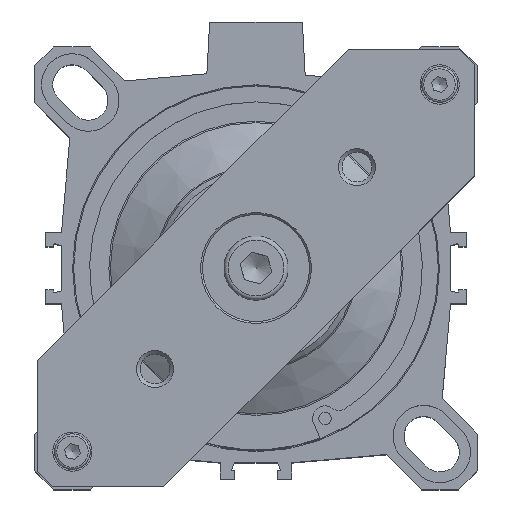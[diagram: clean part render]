
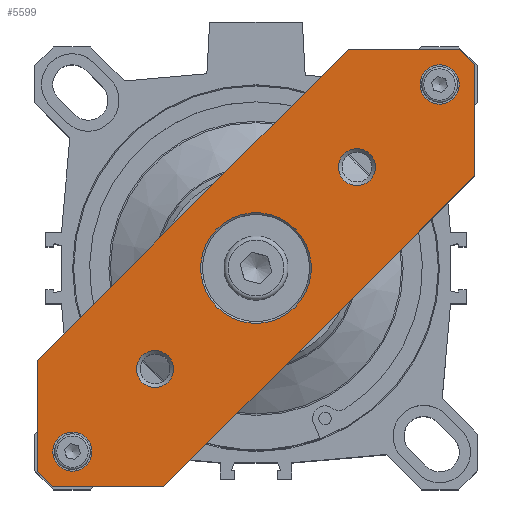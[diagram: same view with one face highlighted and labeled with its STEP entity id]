
A CAD part, top view. The second image highlights one B-rep face of the part: STEP entity #5599.
In plain terms, the highlighted planar face has unit normal (0, 0, 1).
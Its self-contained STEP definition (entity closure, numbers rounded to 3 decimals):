
#221=PLANE('',#8483);
#629=LINE('',#11787,#1035);
#633=LINE('',#11796,#1039);
#636=LINE('',#11802,#1042);
#639=LINE('',#11808,#1045);
#642=LINE('',#11814,#1048);
#645=LINE('',#11820,#1051);
#648=LINE('',#11826,#1054);
#651=LINE('',#11832,#1057);
#1035=VECTOR('',#10000,1000.);
#1039=VECTOR('',#10006,1000.);
#1042=VECTOR('',#10011,1000.);
#1045=VECTOR('',#10016,1000.);
#1048=VECTOR('',#10021,1000.);
#1051=VECTOR('',#10026,1000.);
#1054=VECTOR('',#10031,1000.);
#1057=VECTOR('',#10036,1000.);
#2456=ORIENTED_EDGE('',*,*,#3295,.F.);
#2457=ORIENTED_EDGE('',*,*,#3292,.F.);
#2458=ORIENTED_EDGE('',*,*,#3293,.F.);
#2459=ORIENTED_EDGE('',*,*,#3296,.T.);
#2460=ORIENTED_EDGE('',*,*,#3297,.T.);
#2461=ORIENTED_EDGE('',*,*,#3288,.F.);
#2462=ORIENTED_EDGE('',*,*,#3266,.F.);
#2463=ORIENTED_EDGE('',*,*,#3270,.F.);
#2464=ORIENTED_EDGE('',*,*,#3273,.F.);
#2465=ORIENTED_EDGE('',*,*,#3276,.F.);
#2466=ORIENTED_EDGE('',*,*,#3279,.F.);
#2467=ORIENTED_EDGE('',*,*,#3282,.F.);
#2468=ORIENTED_EDGE('',*,*,#3285,.F.);
#3266=EDGE_CURVE('',#4631,#4632,#629,.T.);
#3270=EDGE_CURVE('',#4635,#4631,#633,.T.);
#3273=EDGE_CURVE('',#4637,#4635,#636,.T.);
#3276=EDGE_CURVE('',#4639,#4637,#639,.T.);
#3279=EDGE_CURVE('',#4641,#4639,#642,.T.);
#3282=EDGE_CURVE('',#4643,#4641,#645,.T.);
#3285=EDGE_CURVE('',#4645,#4643,#648,.T.);
#3288=EDGE_CURVE('',#4632,#4645,#651,.T.);
#3292=EDGE_CURVE('',#4649,#4649,#3635,.T.);
#3293=EDGE_CURVE('',#4650,#4650,#3636,.T.);
#3295=EDGE_CURVE('',#4652,#4652,#3638,.T.);
#3296=EDGE_CURVE('',#4653,#4653,#3639,.T.);
#3297=EDGE_CURVE('',#4654,#4654,#3640,.T.);
#3635=CIRCLE('',#8479,15.5);
#3636=CIRCLE('',#8481,5.188);
#3638=CIRCLE('',#8484,5.188);
#3639=CIRCLE('',#8485,5.5);
#3640=CIRCLE('',#8486,5.5);
#4088=EDGE_LOOP('',(#2456));
#4089=EDGE_LOOP('',(#2457));
#4090=EDGE_LOOP('',(#2458));
#4091=EDGE_LOOP('',(#2459));
#4092=EDGE_LOOP('',(#2460));
#4093=EDGE_LOOP('',(#2461,#2462,#2463,#2464,#2465,#2466,#2467,#2468));
#4631=VERTEX_POINT('',#11788);
#4632=VERTEX_POINT('',#11789);
#4635=VERTEX_POINT('',#11797);
#4637=VERTEX_POINT('',#11803);
#4639=VERTEX_POINT('',#11809);
#4641=VERTEX_POINT('',#11815);
#4643=VERTEX_POINT('',#11821);
#4645=VERTEX_POINT('',#11827);
#4649=VERTEX_POINT('',#11841);
#4650=VERTEX_POINT('',#11844);
#4652=VERTEX_POINT('',#11849);
#4653=VERTEX_POINT('',#11851);
#4654=VERTEX_POINT('',#11853);
#5148=FACE_BOUND('',#4088,.T.);
#5149=FACE_BOUND('',#4089,.T.);
#5150=FACE_BOUND('',#4090,.T.);
#5151=FACE_BOUND('',#4091,.T.);
#5152=FACE_BOUND('',#4092,.T.);
#5153=FACE_BOUND('',#4093,.T.);
#5599=ADVANCED_FACE('',(#5148,#5149,#5150,#5151,#5152,#5153),#221,.T.);
#8479=AXIS2_PLACEMENT_3D('',#11840,#10046,#10047);
#8481=AXIS2_PLACEMENT_3D('',#11843,#10050,#10051);
#8483=AXIS2_PLACEMENT_3D('',#11847,#10054,#10055);
#8484=AXIS2_PLACEMENT_3D('',#11848,#10056,#10057);
#8485=AXIS2_PLACEMENT_3D('',#11850,#10058,#10059);
#8486=AXIS2_PLACEMENT_3D('',#11852,#10060,#10061);
#10000=DIRECTION('',(0.707,0.707,0.));
#10006=DIRECTION('',(0.,1.,0.));
#10011=DIRECTION('',(-0.707,0.707,0.));
#10016=DIRECTION('',(-1.,0.,0.));
#10021=DIRECTION('',(-0.707,-0.707,0.));
#10026=DIRECTION('',(0.,-1.,0.));
#10031=DIRECTION('',(0.707,-0.707,0.));
#10036=DIRECTION('',(1.,0.,0.));
#10046=DIRECTION('',(0.,0.,1.));
#10047=DIRECTION('',(-1.,0.,0.));
#10050=DIRECTION('',(0.,0.,1.));
#10051=DIRECTION('',(-1.,0.,0.));
#10054=DIRECTION('',(0.,0.,1.));
#10055=DIRECTION('',(1.,0.,0.));
#10056=DIRECTION('',(0.,0.,1.));
#10057=DIRECTION('',(-1.,0.,0.));
#10058=DIRECTION('',(0.,0.,-1.));
#10059=DIRECTION('',(1.,0.,0.));
#10060=DIRECTION('',(0.,0.,-1.));
#10061=DIRECTION('',(1.,0.,0.));
#11787=CARTESIAN_POINT('',(-83.5,3.,14.));
#11788=CARTESIAN_POINT('',(-83.5,3.,14.));
#11789=CARTESIAN_POINT('',(-61.5,25.,14.));
#11796=CARTESIAN_POINT('',(-83.5,-3.,14.));
#11797=CARTESIAN_POINT('',(-83.5,-3.,14.));
#11802=CARTESIAN_POINT('',(-61.5,-25.,14.));
#11803=CARTESIAN_POINT('',(-61.5,-25.,14.));
#11808=CARTESIAN_POINT('',(61.5,-25.,14.));
#11809=CARTESIAN_POINT('',(61.5,-25.,14.));
#11814=CARTESIAN_POINT('',(83.5,-3.,14.));
#11815=CARTESIAN_POINT('',(83.5,-3.,14.));
#11820=CARTESIAN_POINT('',(83.5,3.,14.));
#11821=CARTESIAN_POINT('',(83.5,3.,14.));
#11826=CARTESIAN_POINT('',(61.5,25.,14.));
#11827=CARTESIAN_POINT('',(61.5,25.,14.));
#11832=CARTESIAN_POINT('',(-61.5,25.,14.));
#11840=CARTESIAN_POINT('',(0.,0.,14.));
#11841=CARTESIAN_POINT('',(-15.5,0.,14.));
#11843=CARTESIAN_POINT('',(-40.,0.,14.));
#11844=CARTESIAN_POINT('',(-45.188,0.,14.));
#11847=CARTESIAN_POINT('',(0.,0.,14.));
#11848=CARTESIAN_POINT('',(40.,0.,14.));
#11849=CARTESIAN_POINT('',(34.812,0.,14.));
#11850=CARTESIAN_POINT('',(-72.75,0.,14.));
#11851=CARTESIAN_POINT('',(-67.25,0.,14.));
#11852=CARTESIAN_POINT('',(72.75,0.,14.));
#11853=CARTESIAN_POINT('',(78.25,0.,14.));
